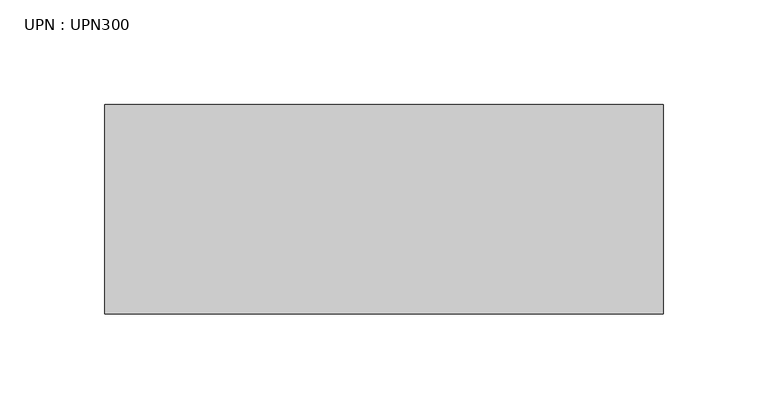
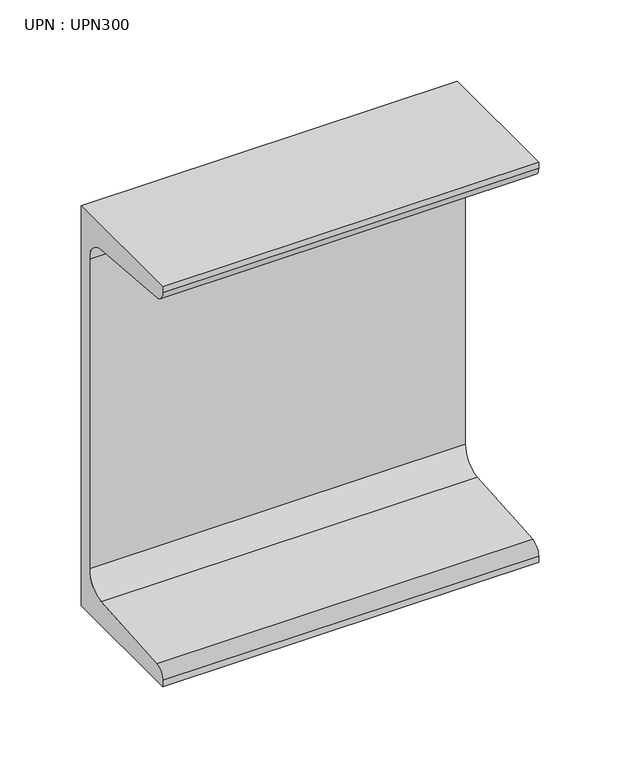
"""IFC4 building model written with IfcOpenShell, lengths in millimetres: beam geometry, UPN : UPN300."""

from ifc_helpers import new_model, si_unit, point, frame, frame_2d, origin, place, context, project, spatial, polyline, circle_curve, trimmed, segment, composite_curve, outline, extrude, source, transform, mapped, element, save


def upn_upn300_1afaab77(model_context):
    return source(origin(), model_context, "Body", "SweptSolid", [
        extrude(outline(composite_curve([segment(polyline([(27.0, 150.0), (27.0, -150.0), (-73.0, -150.0), (-73.0, -145.3826224)]), True, "CONTINUOUS"), segment(trimmed(circle_curve(frame_2d((-65.0, -145.3826224)), 8.0), [point((-73.0, -145.3826224))], [point((-65.637416, -137.4080566))], False, "CARTESIAN"), True, "CONTINUOUS"), segment(polyline([(-65.637416, -137.4080566), (2.274832, -131.9797543)]), True, "CONTINUOUS"), segment(trimmed(circle_curve(frame_2d((1.0, -116.0306225)), 16.0), [point((2.274832, -131.9797543))], [point((17.0, -116.0306225))], True, "CARTESIAN"), True, "CONTINUOUS"), segment(polyline([(17.0, -116.0306225), (17.0, 116.0306225)]), True, "CONTINUOUS"), segment(trimmed(circle_curve(frame_2d((1.0, 116.0306225)), 16.0), [point((17.0, 116.0306225))], [point((2.274832, 131.9797543))], True, "CARTESIAN"), True, "CONTINUOUS"), segment(polyline([(2.274832, 131.9797543), (-65.637416, 137.4080566)]), True, "CONTINUOUS"), segment(trimmed(circle_curve(frame_2d((-65.0, 145.3826224)), 8.0), [point((-65.637416, 137.4080566))], [point((-73.0, 145.3826224))], False, "CARTESIAN"), True, "CONTINUOUS"), segment(polyline([(-73.0, 145.3826224), (-73.0, 150.0), (27.0, 150.0)]), True, "CONTINUOUS")], self_intersect=False)), frame((-133.3, 0.0, 0.0), z_axis=(1.0, 0.0, 0.0), x_axis=(0.0, 1.0, 0.0)), (0.0, 0.0, 1.0), 266.6),
    ])


if __name__ == "__main__":
    model = new_model("IFC4")
    model_context = context("Model", 3, world=origin())
    ifc_project = project(units=[si_unit("LENGTHUNIT", "METRE", prefix="MILLI")], contexts=[model_context])
    site = spatial("IfcSite", under=ifc_project)
    building = spatial("IfcBuilding", under=site)
    placement = place(None, origin())
    upn_upn300_shape = upn_upn300_1afaab77(model_context)
    element("IfcBeam", 1, ObjectType="UPN : UPN300", at=placement, inside=building, context=model_context, shape_type="MappedRepresentation", body=[
        mapped(upn_upn300_shape, transform((0.0, 0.0, 0.0), x_axis=(1.0, 0.0, 0.0), y_axis=(0.0, 1.0, 0.0), z_axis=(0.0, 0.0, 1.0))),
    ])
    save(model, "model.ifc")
